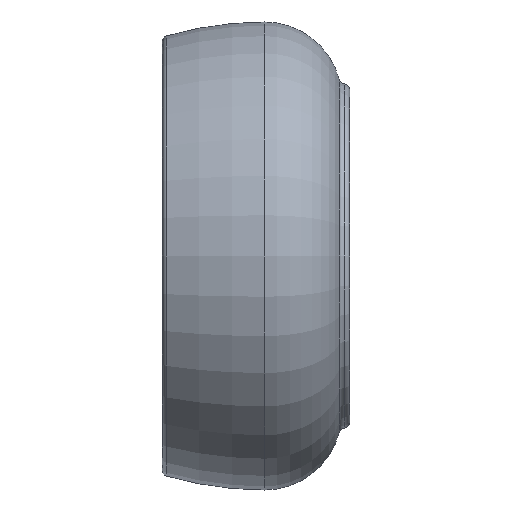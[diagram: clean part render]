
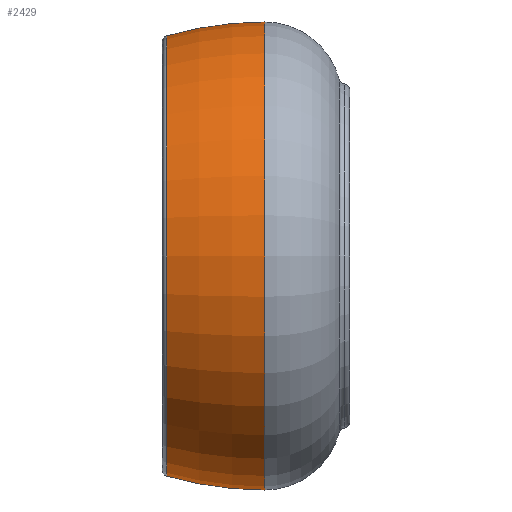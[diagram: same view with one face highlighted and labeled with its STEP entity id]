
A CAD part, left-side view. The second image highlights one B-rep face of the part: STEP entity #2429.
In plain terms, the highlighted toroidal (fillet/blend) face has major radius 105.4 mm and minor radius 316.2 mm.
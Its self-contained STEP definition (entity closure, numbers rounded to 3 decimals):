
#130 = VERTEX_POINT ( 'NONE', #4227 ) ;
#571 = CARTESIAN_POINT ( 'NONE',  ( -184.449, 73.1, 210.8 ) ) ;
#586 = AXIS2_PLACEMENT_3D ( 'NONE', #5905, #4640, #2157 ) ;
#721 = EDGE_LOOP ( 'NONE', ( #5667, #5660, #4672, #4592 ) ) ;
#1181 = VERTEX_POINT ( 'NONE', #571 ) ;
#1473 = AXIS2_PLACEMENT_3D ( 'NONE', #7214, #3478, #7840 ) ;
#2157 = DIRECTION ( 'NONE',  ( 0., 0., -1. ) ) ;
#2242 = CARTESIAN_POINT ( 'NONE',  ( -184.449, 161.374, 198.228 ) ) ;
#2357 = CARTESIAN_POINT ( 'NONE',  ( -184.449, 73.1, -210.8 ) ) ;
#2429 = ADVANCED_FACE ( 'NONE', ( #6752 ), #3934, .T. ) ;
#2474 = CARTESIAN_POINT ( 'NONE',  ( -184.449, 73.1, 105.4 ) ) ;
#2659 = CARTESIAN_POINT ( 'NONE',  ( -184.449, 73.1, 0. ) ) ;
#2811 = VERTEX_POINT ( 'NONE', #2357 ) ;
#3100 = DIRECTION ( 'NONE',  ( 0., 0., -1. ) ) ;
#3114 = AXIS2_PLACEMENT_3D ( 'NONE', #3353, #7714, #3966 ) ;
#3285 = DIRECTION ( 'NONE',  ( 0., 0., -1. ) ) ;
#3353 = CARTESIAN_POINT ( 'NONE',  ( -184.449, 73.1, -105.4 ) ) ;
#3478 = DIRECTION ( 'NONE',  ( 0., -1., 0. ) ) ;
#3672 = EDGE_CURVE ( 'NONE', #1181, #5542, #5309, .T. ) ;
#3895 = EDGE_CURVE ( 'NONE', #5542, #130, #6578, .T. ) ;
#3934 = TOROIDAL_SURFACE ( 'NONE', #586, -105.4, 316.2 ) ;
#3966 = DIRECTION ( 'NONE',  ( 0., 0., 1. ) ) ;
#4227 = CARTESIAN_POINT ( 'NONE',  ( -184.449, 161.374, -198.229 ) ) ;
#4592 = ORIENTED_EDGE ( 'NONE', *, *, #7034, .F. ) ;
#4640 = DIRECTION ( 'NONE',  ( 0., -1., 0. ) ) ;
#4672 = ORIENTED_EDGE ( 'NONE', *, *, #7666, .F. ) ;
#5309 = CIRCLE ( 'NONE', #3114, 316.2 ) ;
#5542 = VERTEX_POINT ( 'NONE', #2242 ) ;
#5660 = ORIENTED_EDGE ( 'NONE', *, *, #3895, .T. ) ;
#5667 = ORIENTED_EDGE ( 'NONE', *, *, #3672, .T. ) ;
#5734 = AXIS2_PLACEMENT_3D ( 'NONE', #2474, #6836, #3100 ) ;
#5905 = CARTESIAN_POINT ( 'NONE',  ( -184.449, 73.1, 0. ) ) ;
#6578 = CIRCLE ( 'NONE', #1473, 198.228 ) ;
#6752 = FACE_OUTER_BOUND ( 'NONE', #721, .T. ) ;
#6836 = DIRECTION ( 'NONE',  ( 1., 0., 0. ) ) ;
#7019 = DIRECTION ( 'NONE',  ( 0., -1., 0. ) ) ;
#7028 = AXIS2_PLACEMENT_3D ( 'NONE', #2659, #7019, #3285 ) ;
#7034 = EDGE_CURVE ( 'NONE', #1181, #2811, #7554, .T. ) ;
#7214 = CARTESIAN_POINT ( 'NONE',  ( -184.449, 161.374, 0. ) ) ;
#7554 = CIRCLE ( 'NONE', #7028, 210.8 ) ;
#7666 = EDGE_CURVE ( 'NONE', #2811, #130, #7993, .T. ) ;
#7714 = DIRECTION ( 'NONE',  ( -1., 0., 0. ) ) ;
#7840 = DIRECTION ( 'NONE',  ( 0., 0., -1. ) ) ;
#7993 = CIRCLE ( 'NONE', #5734, 316.2 ) ;
